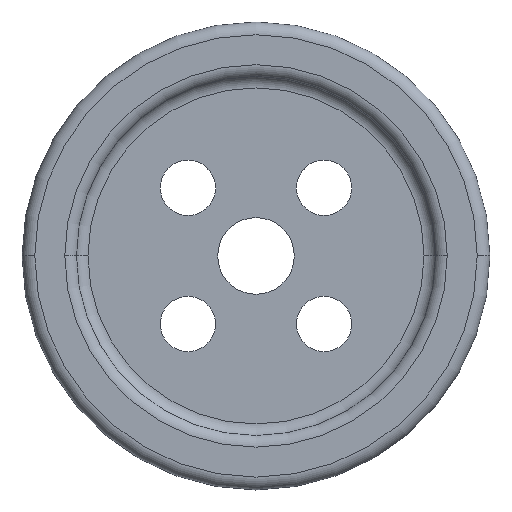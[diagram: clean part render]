
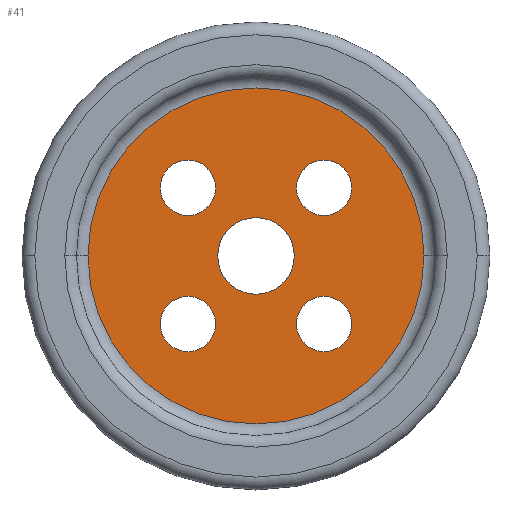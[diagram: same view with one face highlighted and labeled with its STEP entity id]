
A CAD part, top view. The second image highlights one B-rep face of the part: STEP entity #41.
In plain terms, the highlighted planar face has unit normal (0, 0, 1).
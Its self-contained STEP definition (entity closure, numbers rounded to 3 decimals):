
#30 = EDGE_CURVE ( 'NONE', #528, #555, #684, .T. ) ;
#41 = ADVANCED_FACE ( 'NONE', ( #214, #108, #105, #104, #115, #107 ), #1098, .T. ) ;
#52 = EDGE_CURVE ( 'NONE', #544, #548, #690, .T. ) ;
#71 = EDGE_CURVE ( 'NONE', #551, #564, #703, .T. ) ;
#73 = EDGE_CURVE ( 'NONE', #190, #161, #705, .T. ) ;
#77 = EDGE_CURVE ( 'NONE', #167, #568, #707, .T. ) ;
#82 = EDGE_CURVE ( 'NONE', #560, #201, #710, .T. ) ;
#86 = EDGE_CURVE ( 'NONE', #161, #190, #713, .T. ) ;
#87 = EDGE_CURVE ( 'NONE', #568, #167, #714, .T. ) ;
#89 = EDGE_CURVE ( 'NONE', #548, #544, #716, .T. ) ;
#95 = EDGE_CURVE ( 'NONE', #201, #560, #721, .T. ) ;
#100 = EDGE_CURVE ( 'NONE', #564, #551, #723, .T. ) ;
#104 = FACE_BOUND ( 'NONE', #481, .T. ) ;
#105 = FACE_BOUND ( 'NONE', #464, .T. ) ;
#106 = AXIS2_PLACEMENT_3D ( 'NONE', #1122, #1129, #1130 ) ;
#107 = FACE_BOUND ( 'NONE', #454, .T. ) ;
#108 = FACE_BOUND ( 'NONE', #467, .T. ) ;
#115 = FACE_BOUND ( 'NONE', #427, .T. ) ;
#161 = VERTEX_POINT ( 'NONE', #1313 ) ;
#167 = VERTEX_POINT ( 'NONE', #1341 ) ;
#190 = VERTEX_POINT ( 'NONE', #1347 ) ;
#201 = VERTEX_POINT ( 'NONE', #1352 ) ;
#212 = AXIS2_PLACEMENT_3D ( 'NONE', #1053, #1054, #1055 ) ;
#214 = FACE_OUTER_BOUND ( 'NONE', #470, .T. ) ;
#227 = AXIS2_PLACEMENT_3D ( 'NONE', #1099, #1100, #1101 ) ;
#336 = ORIENTED_EDGE ( 'NONE', *, *, #30, .T. ) ;
#339 = ORIENTED_EDGE ( 'NONE', *, *, #95, .F. ) ;
#341 = ORIENTED_EDGE ( 'NONE', *, *, #664, .T. ) ;
#342 = ORIENTED_EDGE ( 'NONE', *, *, #82, .F. ) ;
#343 = ORIENTED_EDGE ( 'NONE', *, *, #73, .F. ) ;
#344 = ORIENTED_EDGE ( 'NONE', *, *, #86, .F. ) ;
#345 = ORIENTED_EDGE ( 'NONE', *, *, #100, .F. ) ;
#346 = ORIENTED_EDGE ( 'NONE', *, *, #71, .F. ) ;
#347 = ORIENTED_EDGE ( 'NONE', *, *, #77, .F. ) ;
#348 = ORIENTED_EDGE ( 'NONE', *, *, #87, .F. ) ;
#349 = ORIENTED_EDGE ( 'NONE', *, *, #52, .F. ) ;
#350 = ORIENTED_EDGE ( 'NONE', *, *, #89, .F. ) ;
#427 = EDGE_LOOP ( 'NONE', ( #347, #348 ) ) ;
#454 = EDGE_LOOP ( 'NONE', ( #349, #350 ) ) ;
#464 = EDGE_LOOP ( 'NONE', ( #343, #344 ) ) ;
#467 = EDGE_LOOP ( 'NONE', ( #339, #342 ) ) ;
#470 = EDGE_LOOP ( 'NONE', ( #336, #341 ) ) ;
#481 = EDGE_LOOP ( 'NONE', ( #345, #346 ) ) ;
#528 = VERTEX_POINT ( 'NONE', #1359 ) ;
#544 = VERTEX_POINT ( 'NONE', #1375 ) ;
#548 = VERTEX_POINT ( 'NONE', #1379 ) ;
#551 = VERTEX_POINT ( 'NONE', #1382 ) ;
#555 = VERTEX_POINT ( 'NONE', #1386 ) ;
#560 = VERTEX_POINT ( 'NONE', #1391 ) ;
#564 = VERTEX_POINT ( 'NONE', #1395 ) ;
#568 = VERTEX_POINT ( 'NONE', #1399 ) ;
#664 = EDGE_CURVE ( 'NONE', #555, #528, #742, .T. ) ;
#684 = CIRCLE ( 'NONE', #212, 3.95 ) ;
#690 = CIRCLE ( 'NONE', #106, 0.65 ) ;
#703 = CIRCLE ( 'NONE', #1711, 0.65 ) ;
#705 = CIRCLE ( 'NONE', #1712, 0.9 ) ;
#707 = CIRCLE ( 'NONE', #1714, 0.65 ) ;
#710 = CIRCLE ( 'NONE', #1719, 0.65 ) ;
#713 = CIRCLE ( 'NONE', #1724, 0.9 ) ;
#714 = CIRCLE ( 'NONE', #1720, 0.65 ) ;
#716 = CIRCLE ( 'NONE', #1730, 0.65 ) ;
#721 = CIRCLE ( 'NONE', #1732, 0.65 ) ;
#723 = CIRCLE ( 'NONE', #1738, 0.65 ) ;
#742 = CIRCLE ( 'NONE', #1776, 3.95 ) ;
#1053 = CARTESIAN_POINT ( 'NONE',  ( 0., 0., 1.95 ) ) ;
#1054 = DIRECTION ( 'NONE',  ( 0., 0., 1. ) ) ;
#1055 = DIRECTION ( 'NONE',  ( 1., 0., 0. ) ) ;
#1098 = PLANE ( 'NONE',  #227 ) ;
#1099 = CARTESIAN_POINT ( 'NONE',  ( 0., 0., 1.95 ) ) ;
#1100 = DIRECTION ( 'NONE',  ( 0., 0., 1. ) ) ;
#1101 = DIRECTION ( 'NONE',  ( 1., 0., 0. ) ) ;
#1122 = CARTESIAN_POINT ( 'NONE',  ( -1.6, 1.6, 1.95 ) ) ;
#1129 = DIRECTION ( 'NONE',  ( 0., 0., 1. ) ) ;
#1130 = DIRECTION ( 'NONE',  ( 1., 0., 0. ) ) ;
#1199 = CARTESIAN_POINT ( 'NONE',  ( 1.6, -1.6, 1.95 ) ) ;
#1200 = DIRECTION ( 'NONE',  ( 0., 0., 1. ) ) ;
#1201 = DIRECTION ( 'NONE',  ( 1., 0., 0. ) ) ;
#1205 = CARTESIAN_POINT ( 'NONE',  ( 0., 0., 1.95 ) ) ;
#1206 = DIRECTION ( 'NONE',  ( 0., 0., 1. ) ) ;
#1207 = DIRECTION ( 'NONE',  ( 1., 0., 0. ) ) ;
#1211 = CARTESIAN_POINT ( 'NONE',  ( 1.6, 1.6, 1.95 ) ) ;
#1218 = DIRECTION ( 'NONE',  ( 0., 0., 1. ) ) ;
#1219 = DIRECTION ( 'NONE',  ( 1., 0., 0. ) ) ;
#1238 = CARTESIAN_POINT ( 'NONE',  ( -1.6, -1.6, 1.95 ) ) ;
#1239 = DIRECTION ( 'NONE',  ( 0., 0., 1. ) ) ;
#1240 = DIRECTION ( 'NONE',  ( 1., 0., 0. ) ) ;
#1250 = CARTESIAN_POINT ( 'NONE',  ( 0., 0., 1.95 ) ) ;
#1251 = DIRECTION ( 'NONE',  ( 0., 0., 1. ) ) ;
#1252 = DIRECTION ( 'NONE',  ( 1., 0., 0. ) ) ;
#1253 = CARTESIAN_POINT ( 'NONE',  ( 1.6, 1.6, 1.95 ) ) ;
#1254 = DIRECTION ( 'NONE',  ( 0., 0., 1. ) ) ;
#1255 = DIRECTION ( 'NONE',  ( 1., 0., 0. ) ) ;
#1259 = CARTESIAN_POINT ( 'NONE',  ( -1.6, 1.6, 1.95 ) ) ;
#1260 = DIRECTION ( 'NONE',  ( 0., 0., 1. ) ) ;
#1261 = DIRECTION ( 'NONE',  ( 1., 0., 0. ) ) ;
#1274 = CARTESIAN_POINT ( 'NONE',  ( -1.6, -1.6, 1.95 ) ) ;
#1278 = DIRECTION ( 'NONE',  ( 0., 0., 1. ) ) ;
#1279 = DIRECTION ( 'NONE',  ( 1., 0., 0. ) ) ;
#1292 = CARTESIAN_POINT ( 'NONE',  ( 1.6, -1.6, 1.95 ) ) ;
#1293 = DIRECTION ( 'NONE',  ( 0., 0., 1. ) ) ;
#1294 = DIRECTION ( 'NONE',  ( 1., 0., 0. ) ) ;
#1313 = CARTESIAN_POINT ( 'NONE',  ( -0.9, 0., 1.95 ) ) ;
#1341 = CARTESIAN_POINT ( 'NONE',  ( 2.25, 1.6, 1.95 ) ) ;
#1347 = CARTESIAN_POINT ( 'NONE',  ( 0.9, 0., 1.95 ) ) ;
#1352 = CARTESIAN_POINT ( 'NONE',  ( -0.95, -1.6, 1.95 ) ) ;
#1359 = CARTESIAN_POINT ( 'NONE',  ( 3.95, 0., 1.95 ) ) ;
#1375 = CARTESIAN_POINT ( 'NONE',  ( -0.95, 1.6, 1.95 ) ) ;
#1379 = CARTESIAN_POINT ( 'NONE',  ( -2.25, 1.6, 1.95 ) ) ;
#1382 = CARTESIAN_POINT ( 'NONE',  ( 0.95, -1.6, 1.95 ) ) ;
#1386 = CARTESIAN_POINT ( 'NONE',  ( -3.95, 0., 1.95 ) ) ;
#1391 = CARTESIAN_POINT ( 'NONE',  ( -2.25, -1.6, 1.95 ) ) ;
#1395 = CARTESIAN_POINT ( 'NONE',  ( 2.25, -1.6, 1.95 ) ) ;
#1399 = CARTESIAN_POINT ( 'NONE',  ( 0.95, 1.6, 1.95 ) ) ;
#1538 = CARTESIAN_POINT ( 'NONE',  ( 0., 0., 1.95 ) ) ;
#1539 = DIRECTION ( 'NONE',  ( 0., 0., 1. ) ) ;
#1540 = DIRECTION ( 'NONE',  ( 1., 0., 0. ) ) ;
#1711 = AXIS2_PLACEMENT_3D ( 'NONE', #1199, #1200, #1201 ) ;
#1712 = AXIS2_PLACEMENT_3D ( 'NONE', #1205, #1206, #1207 ) ;
#1714 = AXIS2_PLACEMENT_3D ( 'NONE', #1211, #1218, #1219 ) ;
#1719 = AXIS2_PLACEMENT_3D ( 'NONE', #1238, #1239, #1240 ) ;
#1720 = AXIS2_PLACEMENT_3D ( 'NONE', #1253, #1254, #1255 ) ;
#1724 = AXIS2_PLACEMENT_3D ( 'NONE', #1250, #1251, #1252 ) ;
#1730 = AXIS2_PLACEMENT_3D ( 'NONE', #1259, #1260, #1261 ) ;
#1732 = AXIS2_PLACEMENT_3D ( 'NONE', #1274, #1278, #1279 ) ;
#1738 = AXIS2_PLACEMENT_3D ( 'NONE', #1292, #1293, #1294 ) ;
#1776 = AXIS2_PLACEMENT_3D ( 'NONE', #1538, #1539, #1540 ) ;
